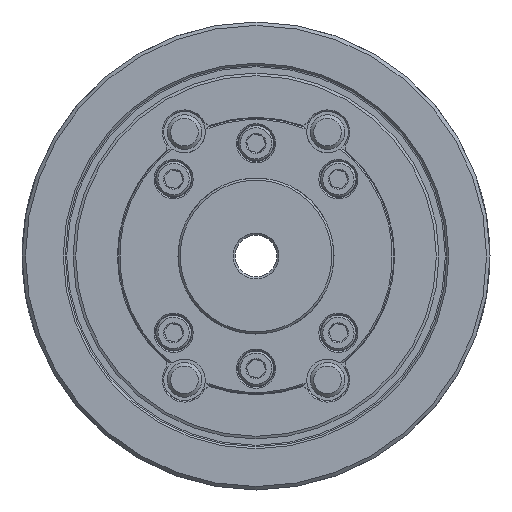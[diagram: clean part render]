
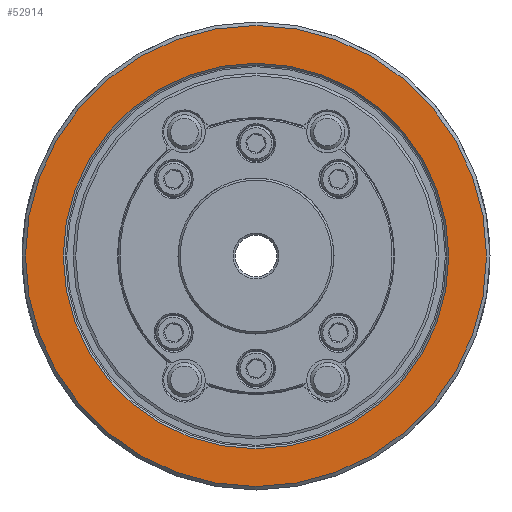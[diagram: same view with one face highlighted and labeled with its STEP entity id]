
A CAD part, left-side view. The second image highlights one B-rep face of the part: STEP entity #52914.
In plain terms, the highlighted planar face has unit normal (-1, 0, 0).
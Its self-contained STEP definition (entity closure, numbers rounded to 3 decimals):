
#1504 = EDGE_LOOP ( 'NONE', ( #55759 ) ) ;
#3215 = CARTESIAN_POINT ( 'NONE',  ( -60., 0., -55.6 ) ) ;
#3580 = DIRECTION ( 'NONE',  ( 1., 0., 0. ) ) ;
#5512 = DIRECTION ( 'NONE',  ( 0., 0., -1. ) ) ;
#5516 = ORIENTED_EDGE ( 'NONE', *, *, #13747, .F. ) ;
#11838 = CARTESIAN_POINT ( 'NONE',  ( -60., 0., -66.5 ) ) ;
#13747 = EDGE_CURVE ( 'NONE', #63969, #63969, #22772, .T. ) ;
#14287 = AXIS2_PLACEMENT_3D ( 'NONE', #60888, #3580, #56748 ) ;
#22772 = CIRCLE ( 'NONE', #29327, 66.5 ) ;
#24449 = VERTEX_POINT ( 'NONE', #3215 ) ;
#26725 = CARTESIAN_POINT ( 'NONE',  ( -60., 0., 0. ) ) ;
#29327 = AXIS2_PLACEMENT_3D ( 'NONE', #60163, #39217, #39893 ) ;
#29650 = FACE_OUTER_BOUND ( 'NONE', #57630, .T. ) ;
#31558 = DIRECTION ( 'NONE',  ( 1., 0., 0. ) ) ;
#34781 = FACE_BOUND ( 'NONE', #1504, .T. ) ;
#35112 = PLANE ( 'NONE',  #14287 ) ;
#38804 = EDGE_CURVE ( 'NONE', #24449, #24449, #49836, .T. ) ;
#39217 = DIRECTION ( 'NONE',  ( 1., 0., 0. ) ) ;
#39893 = DIRECTION ( 'NONE',  ( 0., 0., -1. ) ) ;
#49836 = CIRCLE ( 'NONE', #56389, 55.6 ) ;
#52914 = ADVANCED_FACE ( 'NONE', ( #29650, #34781 ), #35112, .F. ) ;
#55759 = ORIENTED_EDGE ( 'NONE', *, *, #38804, .T. ) ;
#56389 = AXIS2_PLACEMENT_3D ( 'NONE', #26725, #31558, #5512 ) ;
#56748 = DIRECTION ( 'NONE',  ( 0., 0., -1. ) ) ;
#57630 = EDGE_LOOP ( 'NONE', ( #5516 ) ) ;
#60163 = CARTESIAN_POINT ( 'NONE',  ( -60., 0., 0. ) ) ;
#60888 = CARTESIAN_POINT ( 'NONE',  ( -60., -55.6, 0. ) ) ;
#63969 = VERTEX_POINT ( 'NONE', #11838 ) ;
